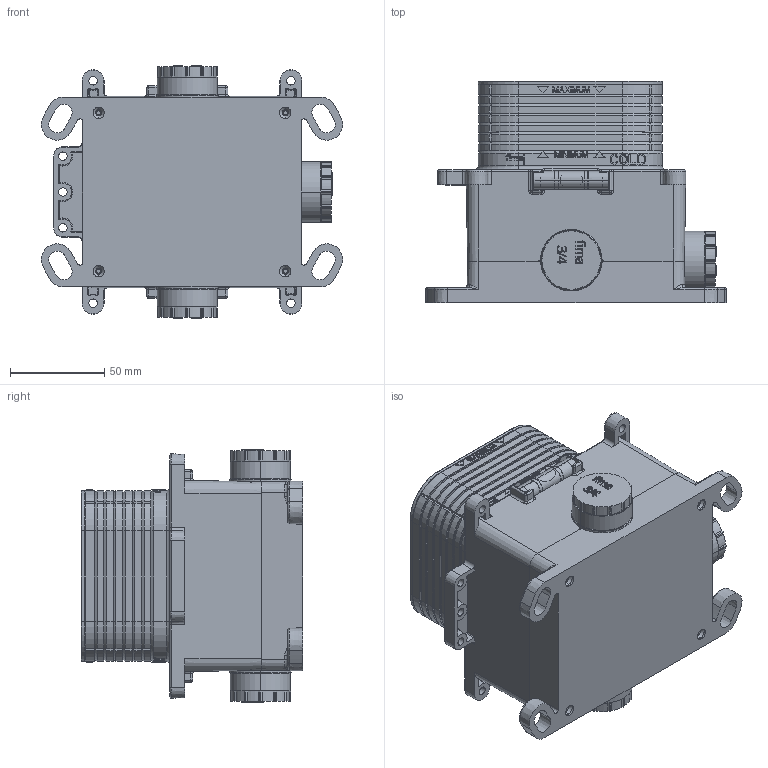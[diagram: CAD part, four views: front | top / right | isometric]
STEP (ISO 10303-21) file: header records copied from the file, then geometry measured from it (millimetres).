
FILE_DESCRIPTION((''),'2;1');
FILE_NAME('F4010_FILE_3D','2020-07-03T',('ivanv'),(''),'CREO PARAMETRIC BY PTC INC, 2016260','CREO PARAMETRIC BY PTC INC, 2016260','');
FILE_SCHEMA(('CONFIG_CONTROL_DESIGN'));
Products named in the file (1): F4010_FILE_3D
Bounding box: 159.74 x 117.5 x 134 mm (x, y, z)
Volume: 274358.2 mm3; surface area: 173178.9 mm2
Topology: 2 solids, 3 shells, 3959 faces, 10833 edges, 7004 vertices
Faces by surface type: plane 2591, cylinder 595, extrusion 277, bspline 208, cone 162, torus 82, sphere 44
Entity records: 138735 total; most frequent: CARTESIAN_POINT 40813, ORIENTED_EDGE 21666, DIRECTION 18038, EDGE_CURVE 10833, VECTOR 7974, LINE 7697, VERTEX_POINT 7004, AXIS2_PLACEMENT_3D 5032
